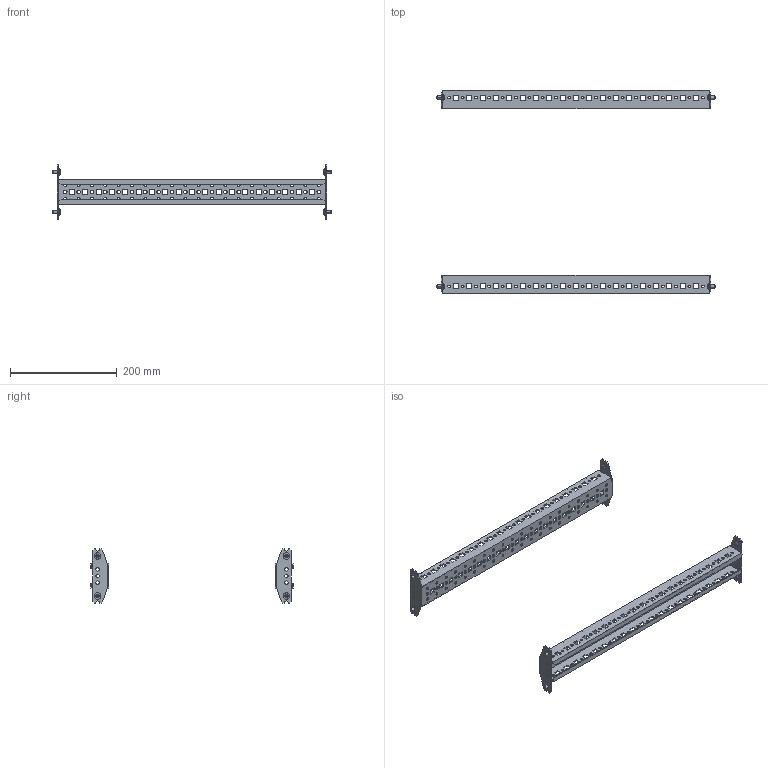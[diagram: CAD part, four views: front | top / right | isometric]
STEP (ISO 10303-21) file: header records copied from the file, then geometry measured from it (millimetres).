
FILE_DESCRIPTION (( 'STEP AP214' ), '1' );
FILE_NAME ('FO-00-VRC-060 Ðåéêà ìîíòàæíàÿ òèïà C 600 ìì (2 øò.óïàê.).STEP', '2025-10-06T12:35:07', ( '' ), ( '' ), 'SwSTEP 2.0', 'SolidWorks 2023', '' );
FILE_SCHEMA (( 'AUTOMOTIVE_DESIGN' ));
Length unit declared in the file: millimetre
Products named in the file (3): FO-00-VRC-060 Рейка монтажная типа C 600 мм (2 шт.упак.); Рейка монтажная типа C 600 мм; Винт М6х10 600 IEK
Assembly tree (6 placements, depth 2):
  FO-00-VRC-060 Рейка монтажная типа C 600 мм (2 шт.упак.)
    Рейка монтажная типа C 600 мм  x2
    Винт М6х10 600 IEK  x4
Bounding box: 522 x 380 x 101.5 mm (x, y, z)
Volume: 244114.7 mm3; surface area: 266215.9 mm2
Topology: 10 solids, 10 shells, 1284 faces, 3720 edges, 2464 vertices
Faces by surface type: plane 636, cylinder 600, torus 16, cone 16, sphere 16
Entity records: 20423 total; most frequent: CARTESIAN_POINT 3595, ORIENTED_EDGE 3444, DIRECTION 3388, EDGE_CURVE 1722, VECTOR 1178, LINE 1178, VERTEX_POINT 1144, AXIS2_PLACEMENT_3D 1105
